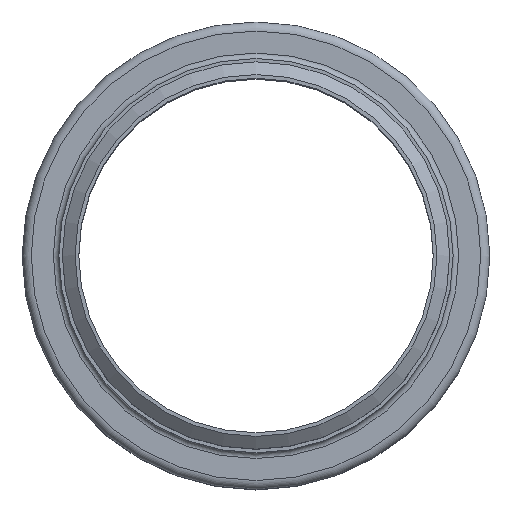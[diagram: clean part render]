
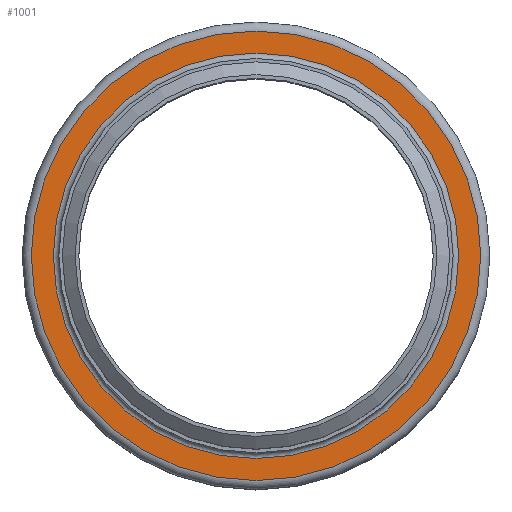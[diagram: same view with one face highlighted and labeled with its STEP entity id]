
A CAD part, top view. The second image highlights one B-rep face of the part: STEP entity #1001.
In plain terms, the highlighted planar face has unit normal (0, 0, 1).
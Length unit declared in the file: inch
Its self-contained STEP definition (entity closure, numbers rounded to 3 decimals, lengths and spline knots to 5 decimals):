
#123=FACE_BOUND('',#304,.T.);
#192=FACE_OUTER_BOUND('',#303,.T.);
#303=EDGE_LOOP('',(#832));
#304=EDGE_LOOP('',(#833));
#424=CIRCLE('',#1220,3.4675);
#425=CIRCLE('',#1222,3.845);
#511=VERTEX_POINT('',#1895);
#512=VERTEX_POINT('',#1899);
#622=EDGE_CURVE('',#511,#511,#424,.T.);
#623=EDGE_CURVE('',#512,#512,#425,.T.);
#832=ORIENTED_EDGE('',*,*,#623,.F.);
#833=ORIENTED_EDGE('',*,*,#622,.T.);
#932=PLANE('',#1221);
#1001=ADVANCED_FACE('',(#192,#123),#932,.T.);
#1220=AXIS2_PLACEMENT_3D('',#1897,#1573,#1574);
#1221=AXIS2_PLACEMENT_3D('',#1898,#1575,#1576);
#1222=AXIS2_PLACEMENT_3D('',#1900,#1577,#1578);
#1573=DIRECTION('center_axis',(0.,0.,-1.));
#1574=DIRECTION('ref_axis',(1.,0.,0.));
#1575=DIRECTION('center_axis',(0.,0.,1.));
#1576=DIRECTION('ref_axis',(1.,0.,0.));
#1577=DIRECTION('center_axis',(0.,0.,-1.));
#1578=DIRECTION('ref_axis',(1.,0.,0.));
#1895=CARTESIAN_POINT('',(3.4675,0.,-0.095));
#1897=CARTESIAN_POINT('Origin',(0.,0.,-0.095));
#1898=CARTESIAN_POINT('Origin',(0.,3.845,-0.095));
#1899=CARTESIAN_POINT('',(3.845,0.,-0.095));
#1900=CARTESIAN_POINT('Origin',(0.,0.,-0.095));
